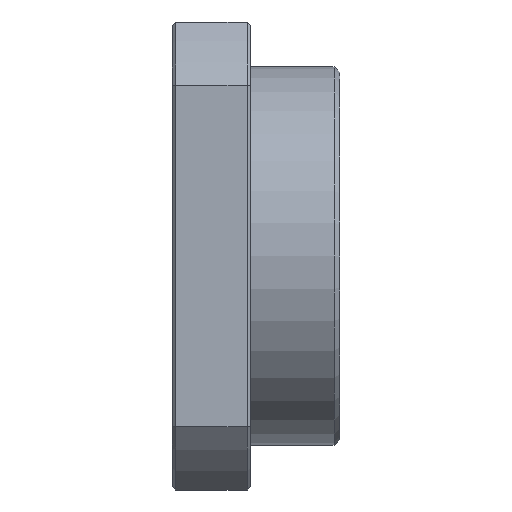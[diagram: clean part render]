
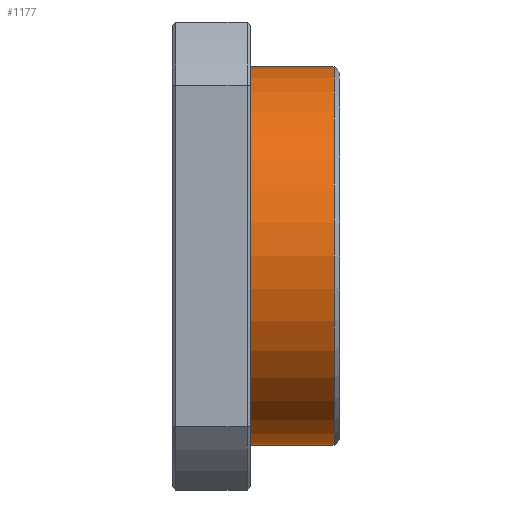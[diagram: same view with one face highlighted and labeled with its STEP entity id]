
A CAD part, front view. The second image highlights one B-rep face of the part: STEP entity #1177.
In plain terms, the highlighted cylindrical face has radius 17 mm (diameter 34 mm), a partial arc.
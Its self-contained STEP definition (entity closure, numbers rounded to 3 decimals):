
#87 = ORIENTED_EDGE ( 'NONE', *, *, #5424, .T. ) ;
#96 = VECTOR ( 'NONE', #3231, 1000. ) ;
#234 = LINE ( 'NONE', #2788, #96 ) ;
#353 = ORIENTED_EDGE ( 'NONE', *, *, #972, .T. ) ;
#515 = CARTESIAN_POINT ( 'NONE',  ( -81.647, 0., 17. ) ) ;
#850 = LINE ( 'NONE', #515, #4225 ) ;
#886 = DIRECTION ( 'NONE',  ( -1., 0., 0. ) ) ;
#972 = EDGE_CURVE ( 'NONE', #3897, #2913, #4153, .T. ) ;
#1113 = EDGE_CURVE ( 'NONE', #3897, #5017, #234, .T. ) ;
#1177 = ADVANCED_FACE ( 'NONE', ( #3592 ), #5386, .T. ) ;
#1264 = CARTESIAN_POINT ( 'NONE',  ( 7., 0., -17. ) ) ;
#1336 = VERTEX_POINT ( 'NONE', #3781 ) ;
#1685 = DIRECTION ( 'NONE',  ( -1., 0., 0. ) ) ;
#1703 = ORIENTED_EDGE ( 'NONE', *, *, #1113, .F. ) ;
#2240 = AXIS2_PLACEMENT_3D ( 'NONE', #4321, #1685, #4755 ) ;
#2281 = EDGE_CURVE ( 'NONE', #5017, #1336, #3435, .T. ) ;
#2788 = CARTESIAN_POINT ( 'NONE',  ( -81.647, 0., -17. ) ) ;
#2913 = VERTEX_POINT ( 'NONE', #4895 ) ;
#3231 = DIRECTION ( 'NONE',  ( -1., 0., 0. ) ) ;
#3435 = CIRCLE ( 'NONE', #2240, 17. ) ;
#3512 = CARTESIAN_POINT ( 'NONE',  ( 14.5, 0., 0. ) ) ;
#3575 = DIRECTION ( 'NONE',  ( -1., 0., 0. ) ) ;
#3592 = FACE_OUTER_BOUND ( 'NONE', #3889, .T. ) ;
#3781 = CARTESIAN_POINT ( 'NONE',  ( 7., 0., 17. ) ) ;
#3889 = EDGE_LOOP ( 'NONE', ( #1703, #353, #87, #5124 ) ) ;
#3897 = VERTEX_POINT ( 'NONE', #4739 ) ;
#3954 = DIRECTION ( 'NONE',  ( 0., 0., 1. ) ) ;
#4153 = CIRCLE ( 'NONE', #4792, 17. ) ;
#4225 = VECTOR ( 'NONE', #3575, 1000. ) ;
#4321 = CARTESIAN_POINT ( 'NONE',  ( 7., 0., 0. ) ) ;
#4392 = AXIS2_PLACEMENT_3D ( 'NONE', #4596, #4576, #5470 ) ;
#4576 = DIRECTION ( 'NONE',  ( -1., 0., 0. ) ) ;
#4596 = CARTESIAN_POINT ( 'NONE',  ( -81.647, 0., 0. ) ) ;
#4739 = CARTESIAN_POINT ( 'NONE',  ( 14.5, 0., -17. ) ) ;
#4755 = DIRECTION ( 'NONE',  ( 0., 0., 1. ) ) ;
#4792 = AXIS2_PLACEMENT_3D ( 'NONE', #3512, #886, #3954 ) ;
#4895 = CARTESIAN_POINT ( 'NONE',  ( 14.5, 0., 17. ) ) ;
#5017 = VERTEX_POINT ( 'NONE', #1264 ) ;
#5124 = ORIENTED_EDGE ( 'NONE', *, *, #2281, .F. ) ;
#5386 = CYLINDRICAL_SURFACE ( 'NONE', #4392, 17. ) ;
#5424 = EDGE_CURVE ( 'NONE', #2913, #1336, #850, .T. ) ;
#5470 = DIRECTION ( 'NONE',  ( 0., 0., 1. ) ) ;
